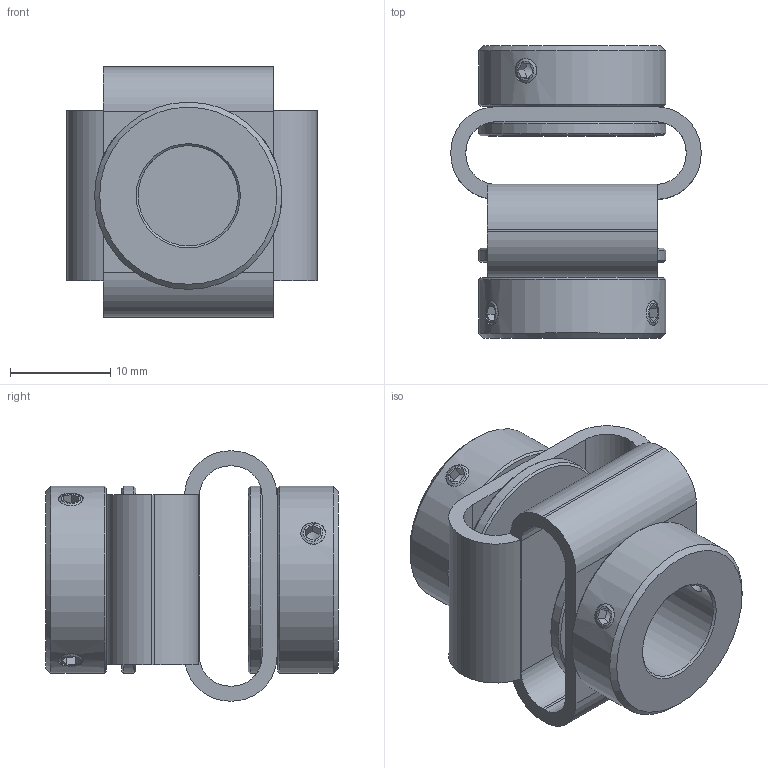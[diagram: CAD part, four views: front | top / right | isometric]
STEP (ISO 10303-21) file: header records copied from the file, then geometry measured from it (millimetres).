
FILE_DESCRIPTION(/* description */ (''),/* implementation_level */ '2;1');
FILE_NAME(/* name */ 'Z:\ABP-Antriebstechnik\Entwicklung-3D\Paguflex\DKPS 2928 04 10.stp',/* time_stamp */ '2017-06-30T08:04:33+02:00',/* author */ ('werner.boesinger'),/* organization */ (''),/* preprocessor_version */ 'ST-DEVELOPER v16.1',/* originating_system */ 'Autodesk Inventor 2016',/* authorisation */ '');
FILE_SCHEMA (('AUTOMOTIVE_DESIGN { 1 0 10303 214 3 1 1 }'));
Length unit declared in the file: millimetre
Products named in the file (1): DKPS 2928 04 10
Bounding box: 25 x 29.2 x 25 mm (x, y, z)
Volume: 5589.6 mm3; surface area: 5395 mm2
Topology: 1 solids, 3 shells, 154 faces, 369 edges, 228 vertices
Faces by surface type: plane 90, cylinder 36, cone 28
Full cylindrical faces by diameter (mm): 2.459 x8, 4 x1, 10 x1, 12.5 x2, 14 x4, 18.7 x4
Entity records: 4367 total; most frequent: CARTESIAN_POINT 961, DIRECTION 694, ORIENTED_EDGE 572, EDGE_CURVE 286, AXIS2_PLACEMENT_3D 273, EDGE_LOOP 220, VERTEX_POINT 192, STYLED_ITEM 155
